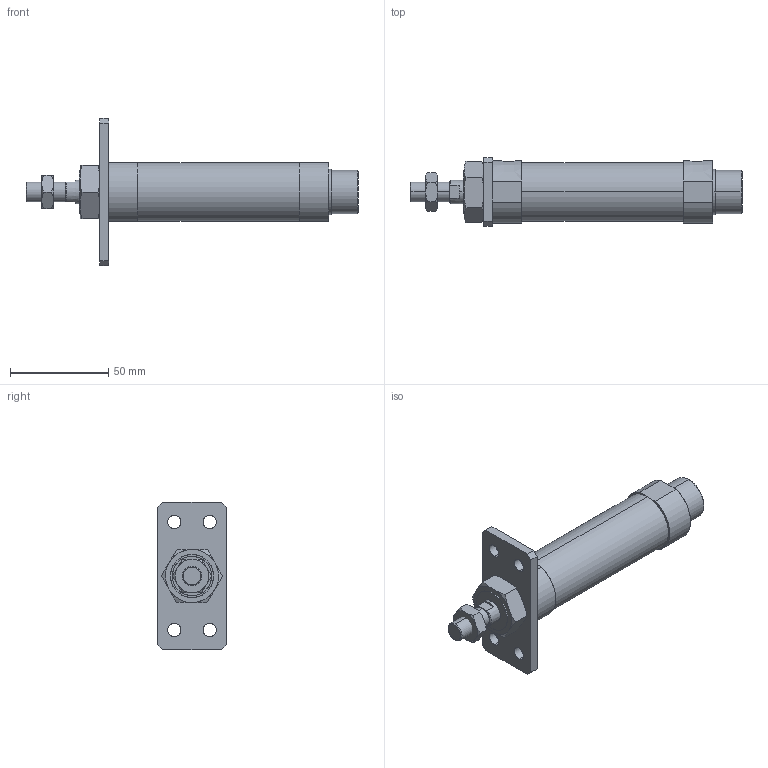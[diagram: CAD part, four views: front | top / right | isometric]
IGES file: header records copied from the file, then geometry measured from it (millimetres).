
Start section: SolidWorks IGES file using analytic representation for surfaces
Global section: file name: C:\Users\Toshiba\Desktop\J#2-25-50-A.IGS; native system: SolidWorks 2014; preprocessor: SolidWorks 2014; author: Toshiba; date: 160308.151034; units: millimetre
Bounding box: 169 x 35 x 75 mm (x, y, z)
Surface area: 25431.6 mm2 (no closed solid volume)
Topology: 0 solids, 0 shells, 117 faces, 2152 edges, 2148 vertices
Faces by surface type: bspline 71, revolution 46
